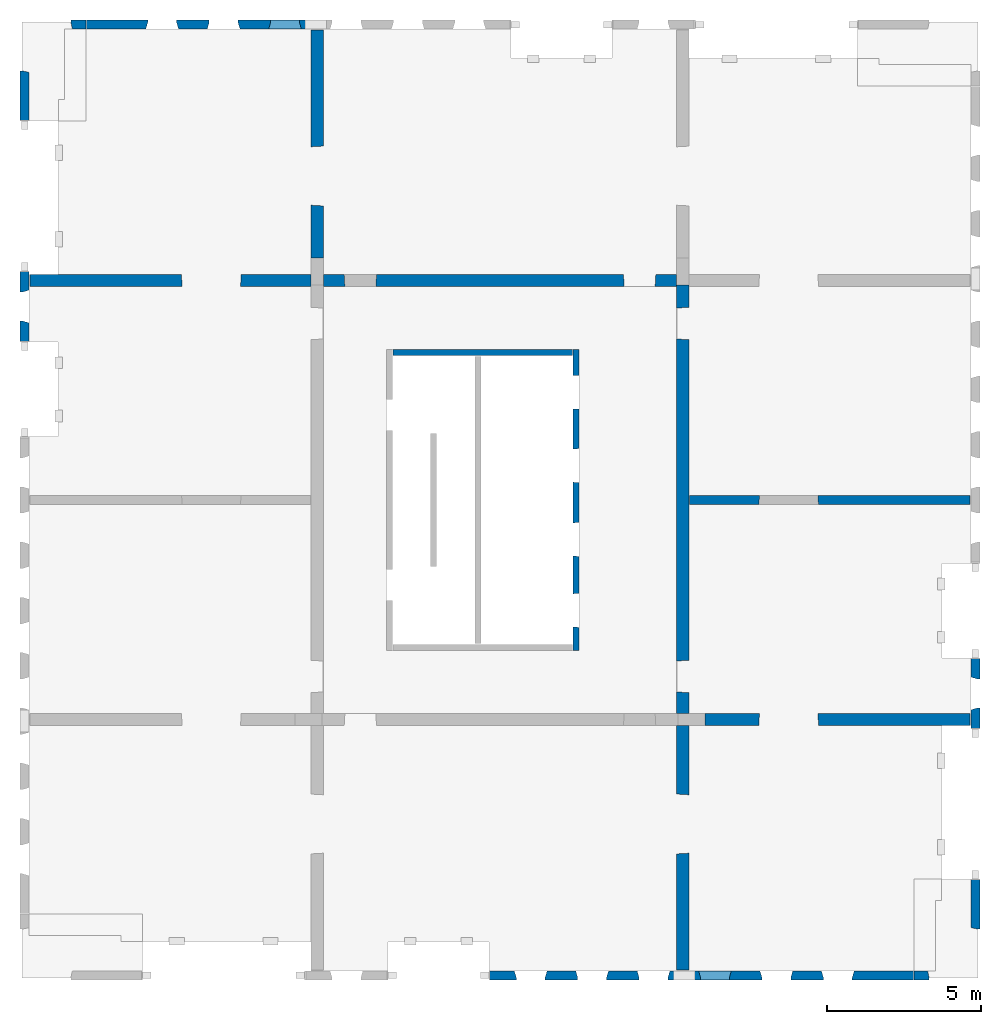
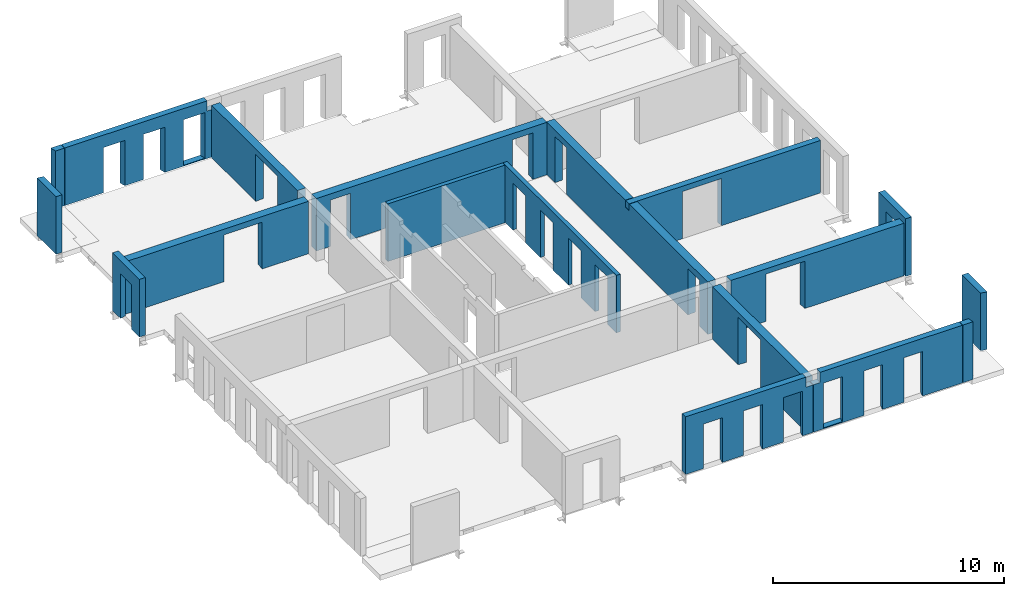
# One storey, part 3 of 4: 18 walls, 33 openings.
"""IFC2X3 building model written with IfcOpenShell, lengths in millimetres."""

import ifcopenshell
import ifcopenshell.guid

model = None  # the IFC model being written
_history = None  # IfcOwnerHistory: only IFC2X3 demands one
_inside = {}  # id of a spatial element -> (the spatial element, [elements in it])
_under = {}  # id of a project, library or spatial element -> (it, [spatial elements below it])
_declared = {}  # id of a project -> (the project, [libraries it declares])
_typed = {}  # id of a type object -> (the type object, [elements of that type])
_made_of = {}  # id of a material, layer set ... -> (it, [elements and type objects made of it])


def new_model(schema):
    """Start an empty IFC model of exactly this schema.

    Asked for "IFC4X3", IfcOpenShell would pick the latest addendum, in which some entities
    have other attributes; the version numbers below select the first issue.
    IFC2X3 requires an IfcOwnerHistory on every rooted entity: one is made here for all.
    """
    global model, _history
    if schema == "IFC4X3":
        model = ifcopenshell.file(schema_version=(4, 3, 0, 0))
    else:
        model = ifcopenshell.file(schema=schema)
    _inside.clear()
    _under.clear()
    _declared.clear()
    _typed.clear()
    _made_of.clear()
    _history = None
    if model.schema == "IFC2X3":
        org = make("IfcOrganization", Name="unknown")
        user = make(
            "IfcPersonAndOrganization",
            ThePerson=make("IfcPerson", FamilyName="unknown"),
            TheOrganization=org,
        )
        app = make(
            "IfcApplication",
            ApplicationDeveloper=org,
            Version="unknown",
            ApplicationFullName="unknown",
            ApplicationIdentifier="unknown",
        )
        _history = make(
            "IfcOwnerHistory",
            OwningUser=user,
            OwningApplication=app,
            ChangeAction="ADDED",
            CreationDate=0,
        )
    return model


def make(cls, **values):
    """One entity of the class cls with the attributes given. An attribute that is None is left unset."""
    return model.create_entity(
        cls, **{name: value for name, value in values.items() if value is not None}
    )


def entity(cls, *values):
    """Any entity or typed value of the class cls, its attributes in the order of the schema. None: left unset."""
    e = model.create_entity(cls)
    for i, value in enumerate(values):
        if value is not None:
            e[i] = value
    return e


def rooted(cls, **values):
    """An entity with a GlobalId (a new one), such as an element, a storey or a relation."""
    return make(cls, GlobalId=ifcopenshell.guid.new(), OwnerHistory=_history, **values)


def si_unit(unit_type, name, prefix=None):
    """IfcSIUnit, for example si_unit("LENGTHUNIT", "METRE", prefix="MILLI")."""
    return make("IfcSIUnit", UnitType=unit_type, Prefix=prefix, Name=name)


def converted_unit(unit_type, name, factor, base, dimensions=None, offset=None):
    """IfcConversionBasedUnit, such as the inch: factor (a typed value) times the base unit."""
    return make(
        "IfcConversionBasedUnit"
        if offset is None
        else "IfcConversionBasedUnitWithOffset",
        ConversionOffset=offset,
        Dimensions=None
        if dimensions is None
        else entity("IfcDimensionalExponents", *dimensions),
        UnitType=unit_type,
        Name=name,
        ConversionFactor=make(
            "IfcMeasureWithUnit", ValueComponent=factor, UnitComponent=base
        ),
    )


def derived_unit(unit_type, elements):
    """IfcDerivedUnit: a product of units, each with its exponent."""
    return make(
        "IfcDerivedUnit",
        Elements=[
            make("IfcDerivedUnitElement", Unit=unit, Exponent=power)
            for unit, power in elements
        ],
        UnitType=unit_type,
    )


def assignment(units):
    """IfcUnitAssignment: the units of a project."""
    return None if units is None else make("IfcUnitAssignment", Units=units)


def point(xyz):
    """IfcCartesianPoint."""
    return None if xyz is None else make("IfcCartesianPoint", Coordinates=xyz)


def direction(xyz):
    """IfcDirection."""
    return None if xyz is None else make("IfcDirection", DirectionRatios=xyz)


def frame(location, z_axis=None, x_axis=None):
    """IfcAxis2Placement3D, a coordinate frame: its origin and axes. An axis left out is left unset."""
    return make(
        "IfcAxis2Placement3D",
        Location=point(location),
        Axis=direction(z_axis),
        RefDirection=direction(x_axis),
    )


def frame_2d(location, x_axis=None):
    """IfcAxis2Placement2D, a coordinate frame in the plane: its origin and x axis."""
    return make(
        "IfcAxis2Placement2D", Location=point(location), RefDirection=direction(x_axis)
    )


def origin():
    """The frame at (0, 0, 0) with its axes left unset."""
    return frame((0.0, 0.0, 0.0))


def origin_2d_with_axis():
    """The frame at (0, 0) in the plane with the x axis (1, 0) written out."""
    return frame_2d((0.0, 0.0), x_axis=(1.0, 0.0))


def place(relative_to, where):
    """IfcLocalPlacement: puts the frame where relative to a parent placement (None: the world)."""
    return make(
        "IfcLocalPlacement", PlacementRelTo=relative_to, RelativePlacement=where
    )


def context(
    kind, dimensions, precision=None, world=None, true_north=None, identifier=None
):
    """IfcGeometricRepresentationContext, for example the 3D "Model" context."""
    return make(
        "IfcGeometricRepresentationContext",
        ContextIdentifier=identifier,
        ContextType=kind,
        CoordinateSpaceDimension=dimensions,
        Precision=precision,
        WorldCoordinateSystem=world,
        TrueNorth=true_north,
    )


def subcontext(parent, identifier, kind, view, scale=None):
    """IfcGeometricRepresentationSubContext, for example "Body" below "Model"."""
    return make(
        "IfcGeometricRepresentationSubContext",
        ContextIdentifier=identifier,
        ContextType=kind,
        ParentContext=parent,
        TargetScale=scale,
        TargetView=view,
    )


def project(units=None, contexts=None):
    """IfcProject with its units and contexts."""
    return rooted(
        "IfcProject",
        Name="project",
        RepresentationContexts=contexts,
        UnitsInContext=assignment(units),
    )


def spatial(cls, under=None, at=None, **own):
    """A site, building, storey or space (cls), placed at a placement, below another one or the project."""
    s = rooted(cls, ObjectPlacement=at, **own)
    if under is not None:
        _under.setdefault(under.id(), (under, []))[1].append(s)
    return s


def profile(cls, at=None, kind="AREA", **sizes):
    """A parametric profile (cls). Its sizes go by their IFC names, for example OverallWidth=200.0."""
    return make(cls, ProfileType=kind, Position=at, **sizes)


def rectangle(**sizes):
    """IfcRectangleProfileDef."""
    return profile("IfcRectangleProfileDef", **sizes)


def extrude(swept, where, along, depth):
    """IfcExtrudedAreaSolid: the profile swept, set in the frame where, extruded along a direction by depth."""
    return make(
        "IfcExtrudedAreaSolid",
        SweptArea=swept,
        Position=where,
        ExtrudedDirection=direction(along),
        Depth=depth,
    )


def faces_of(points, faces, orient=None, outer=None):
    """IfcFace entities. A face is a list of loops; a loop is a list of indices into points, from 0.

    orient and outer hold one flag for each loop. By default every Orientation is true, the
    first loop of a face is its IfcFaceOuterBound and the others are IfcFaceBound.
    """
    made = []
    for i, loops in enumerate(faces):
        bounds = []
        for j, loop in enumerate(loops):
            is_outer = j == 0 if outer is None else outer[i][j]
            bounds.append(
                make(
                    "IfcFaceOuterBound" if is_outer else "IfcFaceBound",
                    Bound=make("IfcPolyLoop", Polygon=[points[k] for k in loop]),
                    Orientation=True if orient is None else orient[i][j],
                )
            )
        made.append(make("IfcFace", Bounds=bounds))
    return made


def faceted_brep(points, faces, orient=None, outer=None, voids=None):
    """IfcFacetedBrep: a solid bounded by flat faces; with voids (closed shells), ...WithVoids."""
    shared = [point(p) for p in points]
    hull = make("IfcClosedShell", CfsFaces=faces_of(shared, faces, orient, outer))
    if voids is None:
        return make("IfcFacetedBrep", Outer=hull)
    return make(
        "IfcFacetedBrepWithVoids",
        Outer=hull,
        Voids=[
            make(cls, CfsFaces=faces_of(shared, fs, o, b)) for cls, fs, o, b in voids
        ],
    )


def shape(context_of_items, identifier, shape_type, items):
    """IfcShapeRepresentation: the items that make up one representation, for example the "Body"."""
    return make(
        "IfcShapeRepresentation",
        ContextOfItems=context_of_items,
        RepresentationIdentifier=identifier,
        RepresentationType=shape_type,
        Items=items,
    )


def material(Name=None, Category=None):
    """IfcMaterial."""
    return make("IfcMaterial", Name=Name, Category=Category)


def layer(
    of_material, thickness, ventilated=None, Name=None, Category=None, Priority=None
):
    """IfcMaterialLayer: one layer of a wall or slab, of a material (None: an air gap)."""
    return make(
        "IfcMaterialLayer",
        Material=of_material,
        LayerThickness=thickness,
        IsVentilated=ventilated,
        Name=Name,
        Category=Category,
        Priority=Priority,
    )


def layer_set(layers, Name=None):
    """IfcMaterialLayerSet."""
    return make("IfcMaterialLayerSet", MaterialLayers=layers, LayerSetName=Name)


def layer_usage(for_layer_set, set_direction, sense, offset, extent=None):
    """IfcMaterialLayerSetUsage: how a layer set lies in its element."""
    return make(
        "IfcMaterialLayerSetUsage",
        ForLayerSet=for_layer_set,
        LayerSetDirection=set_direction,
        DirectionSense=sense,
        OffsetFromReferenceLine=offset,
        ReferenceExtent=extent,
    )


def made_of(thing, what):
    """Note that an element or type object is made of a material, layer set ...; save() writes the relation."""
    if what is not None:
        _made_of.setdefault(what.id(), (what, []))[1].append(thing)
    return thing


def type_object(cls, material=None, **own):
    """A type object (cls), such as IfcWallType, which elements share."""
    return made_of(rooted(cls, **own), material)


def element(
    cls,
    number,
    at=None,
    inside=None,
    cuts=None,
    type_object=None,
    material=None,
    context=None,
    identifier="Body",
    shape_type=None,
    held_by="IfcProductDefinitionShape",
    body=None,
    shapes=None,
    **own,
):
    """One element of the class cls, such as IfcWall. Its Tag is "e" and its number.

    at: its placement. inside: the storey or other place that contains it. cuts: it is an
    opening in that element (IfcRelVoidsElement). A single representation is given by context,
    identifier, shape_type and body (its items); several are given by shapes. held_by: the class
    of the entity that holds the representations. save() writes the other relations.
    """
    e = rooted(cls, Tag="e%d" % number, ObjectPlacement=at, **own)
    if body is not None:
        shapes = [shape(context, identifier, shape_type, body)]
    if shapes is not None:
        e.Representation = make(held_by, Representations=shapes)
    if inside is not None:
        _inside.setdefault(inside.id(), (inside, []))[1].append(e)
    if cuts is not None:
        rooted(
            "IfcRelVoidsElement", RelatingBuildingElement=cuts, RelatedOpeningElement=e
        )
    if type_object is not None:
        _typed.setdefault(type_object.id(), (type_object, []))[1].append(e)
    return made_of(e, material)


def aggregate(whole, parts):
    """IfcRelAggregates: a whole, such as a stair, and the parts it consists of."""
    return rooted("IfcRelAggregates", RelatingObject=whole, RelatedObjects=parts)


def save(model, path):
    """Write the relations noted so far, then the file.

    IfcRelAggregates (storeys below a building ...), IfcRelContainedInSpatialStructure (elements
    in a storey), IfcRelDefinesByType, IfcRelAssociatesMaterial and IfcRelDeclares: one each for
    every whole, place, type object, material and project.
    """
    for whole, parts in _under.values():
        aggregate(whole, parts)
    for where, things in _inside.values():
        rooted(
            "IfcRelContainedInSpatialStructure",
            RelatedElements=things,
            RelatingStructure=where,
        )
    for kind, things in _typed.values():
        rooted("IfcRelDefinesByType", RelatedObjects=things, RelatingType=kind)
    for what, things in _made_of.values():
        rooted("IfcRelAssociatesMaterial", RelatedObjects=things, RelatingMaterial=what)
    for by, libraries in _declared.values():
        rooted("IfcRelDeclares", RelatingContext=by, RelatedDefinitions=libraries)
    model.write(path)


model = new_model("IFC2X3")

# Units and contexts
model_context = context("Model", 3, precision=0.01, world=origin(), true_north=direction((6.12303176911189e-17, 1.0)))
body_context = subcontext(model_context, "Body", "Model", "MODEL_VIEW")
ifc_project = project(units=[si_unit("LENGTHUNIT", "METRE", prefix="MILLI"), si_unit("AREAUNIT", "SQUARE_METRE"), si_unit("VOLUMEUNIT", "CUBIC_METRE"), converted_unit("PLANEANGLEUNIT", "DEGREE", entity("IfcRatioMeasure", 0.0174532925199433), si_unit("PLANEANGLEUNIT", "RADIAN"), dimensions=[0, 0, 0, 0, 0, 0, 0]), si_unit("MASSUNIT", "GRAM", prefix="KILO"), derived_unit("MASSDENSITYUNIT", [(si_unit("MASSUNIT", "GRAM", prefix="KILO"), 1), (si_unit("LENGTHUNIT", "METRE"), -3)]), si_unit("TIMEUNIT", "SECOND"), si_unit("FREQUENCYUNIT", "HERTZ"), si_unit("THERMODYNAMICTEMPERATUREUNIT", "DEGREE_CELSIUS"), derived_unit("THERMALTRANSMITTANCEUNIT", [(si_unit("MASSUNIT", "GRAM", prefix="KILO"), 1), (si_unit("THERMODYNAMICTEMPERATUREUNIT", "KELVIN"), -1), (si_unit("TIMEUNIT", "SECOND"), -3)]), derived_unit("VOLUMETRICFLOWRATEUNIT", [(si_unit("LENGTHUNIT", "METRE"), 3), (si_unit("TIMEUNIT", "SECOND"), -1)]), si_unit("ELECTRICCURRENTUNIT", "AMPERE"), si_unit("ELECTRICVOLTAGEUNIT", "VOLT"), si_unit("POWERUNIT", "WATT"), si_unit("FORCEUNIT", "NEWTON", prefix="KILO"), si_unit("ILLUMINANCEUNIT", "LUX"), si_unit("LUMINOUSFLUXUNIT", "LUMEN"), si_unit("LUMINOUSINTENSITYUNIT", "CANDELA"), derived_unit("USERDEFINED", [(si_unit("MASSUNIT", "GRAM", prefix="KILO"), -1), (si_unit("LENGTHUNIT", "METRE"), -2), (si_unit("TIMEUNIT", "SECOND"), 3), (si_unit("LUMINOUSFLUXUNIT", "LUMEN"), 1)]), derived_unit("LINEARVELOCITYUNIT", [(si_unit("LENGTHUNIT", "METRE"), 1), (si_unit("TIMEUNIT", "SECOND"), -1)]), si_unit("PRESSUREUNIT", "PASCAL"), derived_unit("USERDEFINED", [(si_unit("LENGTHUNIT", "METRE"), -2), (si_unit("MASSUNIT", "GRAM", prefix="KILO"), 1), (si_unit("TIMEUNIT", "SECOND"), -2)])], contexts=[model_context])

# Site, building, storey
site_placement = place(None, origin())
site = spatial("IfcSite", under=ifc_project, at=site_placement, Name="Default", CompositionType="ELEMENT")
building_placement = place(site_placement, origin())
building = spatial("IfcBuilding", under=site, at=building_placement, Name="niet gebruiken", CompositionType="ELEMENT")
storey_placement = place(building_placement, frame((0.0, 0.0, 76140.0)))
storey = spatial("IfcBuildingStorey", under=building, at=storey_placement, Name="24 vierentwintigste verdieping", CompositionType="ELEMENT", Elevation=76140.0000000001)

# Wall, openings
ifc_material = material(Name="NLRS_f2_beton prefab")
ifc_layer_1 = layer(ifc_material, 200.0)
ifc_layer_set_1 = layer_set([ifc_layer_1], Name="Basic Wall:NLRS_22.21_WA_beton prefab d=200_gen")
ifc_layer_usage_1 = layer_usage(ifc_layer_set_1, "AXIS2", "NEGATIVE", 100.0)
wall_type_1 = type_object("IfcWallType", Name="Basic Wall:NLRS_22.21_WA_beton prefab d=200_gen", PredefinedType="STANDARD", material=ifc_layer_set_1)
wall_1_placement = place(storey_placement, frame((144230.0, 22400.0, -50.0), z_axis=(0.0, 0.0, 1.0), x_axis=(0.0, -1.0, 0.0)))
wall_1 = element("IfcWallStandardCase", 1, at=wall_1_placement, inside=storey, type_object=wall_type_1, material=ifc_layer_usage_1, Name="Basic Wall:NLRS_22.21_WA_beton prefab d=200_gen", ObjectType="Basic Wall:NLRS_22.21_WA_beton prefab d=200_gen", context=body_context, shape_type="SweptSolid", body=[
    extrude(rectangle(XDim=9800.0, YDim=199.999999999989, at=frame_2d((4900.0, -3.69482222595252e-13), x_axis=(-1.0, 0.0))), origin(), (0.0, 0.0, 1.0), 3039.99999999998),
])
opening_1_placement = place(wall_1_placement, frame((9047.0, -100.0, 0.0)))
element("IfcOpeningElement", 2, at=opening_1_placement, cuts=wall_1, Name="Basic Wall:NLRS_22.21_WA_beton prefab d=200_gen", ObjectType="Opening", context=body_context, shape_type="Brep", body=[
    faceted_brep([(-1104.0, 200.0, 2502.0), (-1104.0, 200.0, 0.0), (-1092.0, 0.0, 0.0), (-1092.0, 0.0, 2490.0), (0.0, 200.0, 0.0), (-12.0, 0.0, 0.0), (-12.0, 0.0, 2490.0), (0.0, 200.0, 2502.0)], [[[0, 1, 2, 3]], [[1, 4, 5, 2]], [[6, 3, 2, 5]], [[7, 4, 1, 0]], [[7, 0, 3, 6]], [[4, 7, 6, 5]]]),
])
opening_2_placement = place(wall_1_placement, frame((6737.0, -100.0, 0.0)))
element("IfcOpeningElement", 3, at=opening_2_placement, cuts=wall_1, Name="Basic Wall:NLRS_22.21_WA_beton prefab d=200_gen", ObjectType="Opening", context=body_context, shape_type="Brep", body=[
    faceted_brep([(-1104.0, 200.0, 2502.0), (-1104.0, 200.0, 0.0), (-1092.0, 0.0, 0.0), (-1092.0, 0.0, 2490.0), (0.0, 200.0, 0.0), (-12.0, 0.0, 0.0), (-12.0, 0.0, 2490.0), (0.0, 200.0, 2502.0)], [[[0, 1, 2, 3]], [[1, 4, 5, 2]], [[6, 3, 2, 5]], [[7, 4, 1, 0]], [[7, 0, 3, 6]], [[4, 7, 6, 5]]]),
])
opening_3_placement = place(wall_1_placement, frame((4332.0, -100.0, 0.0)))
element("IfcOpeningElement", 4, at=opening_3_placement, cuts=wall_1, Name="Basic Wall:NLRS_22.21_WA_beton prefab d=200_gen", ObjectType="Opening", context=body_context, shape_type="Brep", body=[
    faceted_brep([(-1104.0, 200.0, 2502.0), (-1104.0, 200.0, 0.0), (-1092.0, 0.0, 0.0), (-1092.0, 0.0, 2490.0), (0.0, 200.0, 0.0), (-12.0, 0.0, 0.0), (-12.0, 0.0, 2490.0), (0.0, 200.0, 2502.0)], [[[0, 1, 2, 3]], [[1, 4, 5, 2]], [[6, 3, 2, 5]], [[7, 4, 1, 0]], [[7, 0, 3, 6]], [[4, 7, 6, 5]]]),
])
opening_4_placement = place(wall_1_placement, frame((1942.0, -100.0, 0.0)))
element("IfcOpeningElement", 5, at=opening_4_placement, cuts=wall_1, Name="Basic Wall:NLRS_22.21_WA_beton prefab d=200_gen", ObjectType="Opening", context=body_context, shape_type="Brep", body=[
    faceted_brep([(-1104.0, 200.0, 2502.0), (-1104.0, 200.0, 0.0), (-1092.0, 0.0, 0.0), (-1092.0, 0.0, 2490.0), (0.0, 200.0, 0.0), (-12.0, 0.0, 0.0), (-12.0, 0.0, 2490.0), (0.0, 200.0, 2502.0)], [[[0, 1, 2, 3]], [[1, 4, 5, 2]], [[6, 3, 2, 5]], [[7, 4, 1, 0]], [[7, 0, 3, 6]], [[4, 7, 6, 5]]]),
])

# Wall
ifc_layer_usage_2 = layer_usage(ifc_layer_set_1, "AXIS2", "NEGATIVE", 100.0)
wall_2_placement = place(storey_placement, frame((138270.0, 22300.0, -50.0)))
element("IfcWallStandardCase", 6, at=wall_2_placement, inside=storey, type_object=wall_type_1, material=ifc_layer_usage_2, Name="Basic Wall:NLRS_22.21_WA_beton prefab d=200_gen", ObjectType="Basic Wall:NLRS_22.21_WA_beton prefab d=200_gen", context=body_context, shape_type="SweptSolid", body=[
    extrude(rectangle(XDim=5839.99999999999, YDim=199.999999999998, at=frame_2d((2919.99999999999, -7.60280727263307e-13), x_axis=(-1.0, 0.0))), origin(), (0.0, 0.0, 1.0), 3039.99999999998),
])

# Wall, openings
ifc_layer_2 = layer(ifc_material, 300.0)
ifc_layer_set_2 = layer_set([ifc_layer_2], Name="Basic Wall:NLRS_22.21_WA_beton prefab d=300_gen")
ifc_layer_usage_3 = layer_usage(ifc_layer_set_2, "AXIS2", "NEGATIVE", 150.0)
wall_type_2 = type_object("IfcWallType", Name="Basic Wall:NLRS_22.21_WA_beton prefab d=300_gen", PredefinedType="STANDARD", material=ifc_layer_set_2)
wall_3_placement = place(storey_placement, frame((157060.0, 17500.0, -70.0), z_axis=(0.0, 0.0, 1.0), x_axis=(-1.0, 0.0, 0.0)))
wall_3 = element("IfcWallStandardCase", 7, at=wall_3_placement, inside=storey, type_object=wall_type_2, material=ifc_layer_usage_3, Name="Basic Wall:NLRS_22.21_WA_beton prefab d=300_gen", ObjectType="Basic Wall:NLRS_22.21_WA_beton prefab d=300_gen", context=body_context, shape_type="SweptSolid", body=[
    extrude(rectangle(XDim=9559.9999999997, YDim=300.000000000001, at=frame_2d((4779.99999999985, -1.84741111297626e-13), x_axis=(-1.0, 0.0))), origin(), (0.0, 0.0, 1.0), 2769.99999999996),
])
opening_5_placement = place(wall_3_placement, frame((6878.0, 150.0, 0.0)))
element("IfcOpeningElement", 8, at=opening_5_placement, cuts=wall_3, Name="Basic Wall:NLRS_22.21_WA_beton prefab d=300_gen", ObjectType="Opening", context=body_context, shape_type="Brep", body=[
    faceted_brep([(-18.0, -300.0, 2470.0), (-1918.0, -300.0, 2470.0), (-1918.0, -300.0, 0.0), (-18.0, -300.0, 0.0), (0.0, 0.0, 2488.0), (0.0, 0.0, 0.0), (-1936.0, 0.0, 0.0), (-1936.0, 0.0, 2488.0)], [[[0, 1, 2, 3]], [[4, 5, 6, 7]], [[4, 7, 1, 0]], [[7, 6, 2, 1]], [[6, 5, 3, 2]], [[5, 4, 0, 3]]]),
])
opening_6_placement = place(wall_3_placement, origin())
element("IfcOpeningElement", 9, at=opening_6_placement, cuts=wall_3, Name="Basic Wall:NLRS_22.21_WA_beton prefab d=300_gen", ObjectType="Opening", context=body_context, shape_type="SweptSolid", body=[
    extrude(rectangle(XDim=2439.99999999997, YDim=420.000000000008, at=frame_2d((0.0, -4.32009983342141e-12), x_axis=(0.0, 1.0))), frame((9350.0, 150.0, 1220.0), z_axis=(0.0, -1.0, 0.0), x_axis=(1.0, 0.0, 0.0)), (0.0, 0.0, 1.0), 300.0),
])

# Wall, opening
ifc_layer_3 = layer(ifc_material, 400.0)
ifc_layer_set_3 = layer_set([ifc_layer_3], Name="Basic Wall:NLRS_22.21_WA_beton prefab d=400_gen")
ifc_layer_usage_4 = layer_usage(ifc_layer_set_3, "AXIS2", "NEGATIVE", 200.0)
wall_type_3 = type_object("IfcWallType", Name="Basic Wall:NLRS_22.21_WA_beton prefab d=400_gen", PredefinedType="STANDARD", material=ifc_layer_set_3)
wall_4_placement = place(storey_placement, frame((147700.0, 10150.0, -70.0), z_axis=(0.0, 0.0, 1.0), x_axis=(0.0, -1.0, 0.0)))
wall_4 = element("IfcWallStandardCase", 10, at=wall_4_placement, inside=storey, type_object=wall_type_3, material=ifc_layer_usage_4, Name="Basic Wall:NLRS_22.21_WA_beton prefab d=400_gen", ObjectType="Basic Wall:NLRS_22.21_WA_beton prefab d=400_gen", context=body_context, shape_type="SweptSolid", body=[
    extrude(rectangle(XDim=7960.00000000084, YDim=400.000000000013, at=frame_2d((3980.00000000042, -7.105427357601e-14), x_axis=(-1.0, 0.0))), origin(), (0.0, 0.0, 1.0), 2770.00000000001),
])
opening_7_placement = place(wall_4_placement, frame((4174.0, -200.0, 0.0)))
element("IfcOpeningElement", 11, at=opening_7_placement, cuts=wall_4, Name="Basic Wall:NLRS_22.21_WA_beton prefab d=400_gen", ObjectType="Opening", context=body_context, shape_type="Brep", body=[
    faceted_brep([(-24.0, 400.0, 2470.0), (-24.0, 400.0, 0.0), (-1924.0, 400.0, 0.0), (-1924.0, 400.0, 2470.0), (0.0, 0.0, 2494.0), (-1948.0, 0.0, 2494.0), (-1948.0, 0.0, 0.0), (0.0, 0.0, 0.0)], [[[0, 1, 2, 3]], [[4, 5, 6, 7]], [[4, 0, 3, 5]], [[5, 3, 2, 6]], [[6, 2, 1, 7]], [[7, 1, 0, 4]]]),
])

ifc_layer_usage_5 = layer_usage(ifc_layer_set_3, "AXIS2", "NEGATIVE", 200.0)
wall_5_placement = place(storey_placement, frame((135600.0, 24650.0, -70.0), z_axis=(0.0, 0.0, 1.0), x_axis=(-1.0, 0.0, 0.0)))
wall_5 = element("IfcWallStandardCase", 12, at=wall_5_placement, inside=storey, type_object=wall_type_3, material=ifc_layer_usage_5, Name="Basic Wall:NLRS_22.21_WA_beton prefab d=400_gen", ObjectType="Basic Wall:NLRS_22.21_WA_beton prefab d=400_gen", context=body_context, shape_type="SweptSolid", body=[
    extrude(rectangle(XDim=9159.99999999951, YDim=399.999999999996, at=frame_2d((4579.99999999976, -1.36424205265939e-12), x_axis=(-1.0, 0.0))), origin(), (0.0, 0.0, 1.0), 2770.00000000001),
])
opening_8_placement = place(wall_5_placement, frame((4224.0, 200.0, 0.0)))
element("IfcOpeningElement", 13, at=opening_8_placement, cuts=wall_5, Name="Basic Wall:NLRS_22.21_WA_beton prefab d=400_gen", ObjectType="Opening", context=body_context, shape_type="Brep", body=[
    faceted_brep([(-1924.0, 0.0, 2470.0), (-24.0, 0.0, 2470.0), (-24.0, 0.0, 0.0), (-1924.0, 0.0, 0.0), (-1948.0, -400.0, 2494.0), (-1948.0, -400.0, 0.0), (0.0, -400.0, 0.0), (0.0, -400.0, 2494.0)], [[[0, 1, 2, 3]], [[4, 5, 6, 7]], [[4, 7, 1, 0]], [[7, 6, 2, 1]], [[6, 5, 3, 2]], [[5, 4, 0, 3]]]),
])

ifc_layer_usage_6 = layer_usage(ifc_layer_set_3, "AXIS2", "NEGATIVE", 200.0)
wall_6_placement = place(storey_placement, frame((148430.0, 10350.0, -70.0)))
wall_6 = element("IfcWallStandardCase", 14, at=wall_6_placement, inside=storey, type_object=wall_type_3, material=ifc_layer_usage_6, Name="Basic Wall:NLRS_22.21_WA_beton prefab d=400_gen", ObjectType="Basic Wall:NLRS_22.21_WA_beton prefab d=400_gen", context=body_context, shape_type="SweptSolid", body=[
    extrude(rectangle(XDim=8630.00000000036, YDim=400.0, at=frame_2d((4315.00000000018, 0.0), x_axis=(-1.0, 0.0))), origin(), (0.0, 0.0, 1.0), 2770.00000000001),
])
opening_9_placement = place(wall_6_placement, frame((1746.0, -200.0, 0.0)))
element("IfcOpeningElement", 15, at=opening_9_placement, cuts=wall_6, Name="Basic Wall:NLRS_22.21_WA_beton prefab d=400_gen", ObjectType="Opening", context=body_context, shape_type="Brep", body=[
    faceted_brep([(24.0, 400.0, 2470.0), (1924.0, 400.0, 2470.0), (1924.0, 400.0, 0.0), (24.0, 400.0, 0.0), (0.0, 0.0, 2494.0), (0.0, 0.0, 0.0), (1948.0, 0.0, 0.0), (1948.0, 0.0, 2494.0)], [[[0, 1, 2, 3]], [[4, 5, 6, 7]], [[4, 7, 1, 0]], [[7, 6, 2, 1]], [[6, 5, 3, 2]], [[5, 4, 0, 3]]]),
])

ifc_layer_usage_7 = layer_usage(ifc_layer_set_3, "AXIS2", "NEGATIVE", 200.0)
wall_7_placement = place(storey_placement, frame((135800.0, 25380.0, -70.0), z_axis=(0.0, 0.0, 1.0), x_axis=(0.0, 1.0, 0.0)))
wall_7 = element("IfcWallStandardCase", 16, at=wall_7_placement, inside=storey, type_object=wall_type_3, material=ifc_layer_usage_7, Name="Basic Wall:NLRS_22.21_WA_beton prefab d=400_gen", ObjectType="Basic Wall:NLRS_22.21_WA_beton prefab d=400_gen", context=body_context, shape_type="SweptSolid", body=[
    extrude(rectangle(XDim=7430.00000000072, YDim=400.000000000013, at=frame_2d((3715.00000000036, -5.62749846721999e-12), x_axis=(-1.0, 0.0))), origin(), (0.0, 0.0, 1.0), 2770.00000000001),
])
opening_10_placement = place(wall_7_placement, frame((1696.0, 200.0, 0.0)))
element("IfcOpeningElement", 17, at=opening_10_placement, cuts=wall_7, Name="Basic Wall:NLRS_22.21_WA_beton prefab d=400_gen", ObjectType="Opening", context=body_context, shape_type="Brep", body=[
    faceted_brep([(1924.0, 0.0, 2470.0), (1924.0, 0.0, 0.0), (24.0, 0.0, 0.0), (24.0, 0.0, 2470.0), (1948.0, -400.0, 2494.0), (0.0, -400.0, 2494.0), (0.0, -400.0, 0.0), (1948.0, -400.0, 0.0)], [[[0, 1, 2, 3]], [[4, 5, 6, 7]], [[4, 0, 3, 5]], [[5, 3, 2, 6]], [[6, 2, 1, 7]], [[7, 1, 0, 4]]]),
])

# Wall, openings
ifc_layer_usage_8 = layer_usage(ifc_layer_set_3, "AXIS2", "NEGATIVE", 200.0)
wall_8_placement = place(storey_placement, frame((147700.0, 24500.0, -70.0), z_axis=(0.0, 0.0, 1.0), x_axis=(0.0, -1.0, 0.0)))
wall_8 = element("IfcWallStandardCase", 18, at=wall_8_placement, inside=storey, type_object=wall_type_3, material=ifc_layer_usage_8, Name="Basic Wall:NLRS_22.21_WA_beton prefab d=400_gen", ObjectType="Basic Wall:NLRS_22.21_WA_beton prefab d=400_gen", context=body_context, shape_type="SweptSolid", body=[
    extrude(rectangle(XDim=13949.9999999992, YDim=400.000000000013, at=frame_2d((6974.9999999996, 2.8421709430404e-14), x_axis=(-1.0, 0.0))), origin(), (0.0, 0.0, 1.0), 2770.00000000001),
])
opening_11_placement = place(wall_8_placement, frame((13274.0, -200.0, 0.0)))
element("IfcOpeningElement", 19, at=opening_11_placement, cuts=wall_8, Name="Basic Wall:NLRS_22.21_WA_beton prefab d=400_gen", ObjectType="Opening", context=body_context, shape_type="Brep", body=[
    faceted_brep([(-1054.0, 400.0, 2472.0), (-1054.0, 400.0, 0.0), (-1030.0, 0.0, 0.0), (-1030.0, 0.0, 2448.0), (0.0, 400.0, 0.0), (-24.0, 0.0, 0.0), (-24.0, 0.0, 2448.0), (0.0, 400.0, 2472.0)], [[[0, 1, 2, 3]], [[1, 4, 5, 2]], [[6, 3, 2, 5]], [[7, 4, 1, 0]], [[7, 0, 3, 6]], [[4, 7, 6, 5]]]),
])
opening_12_placement = place(wall_8_placement, frame((1780.0, -200.0, 0.0)))
element("IfcOpeningElement", 20, at=opening_12_placement, cuts=wall_8, Name="Basic Wall:NLRS_22.21_WA_beton prefab d=400_gen", ObjectType="Opening", context=body_context, shape_type="Brep", body=[
    faceted_brep([(-1054.0, 400.0, 2472.0), (-1054.0, 400.0, 0.0), (-1030.0, 0.0, 0.0), (-1030.0, 0.0, 2448.0), (0.0, 400.0, 0.0), (-24.0, 0.0, 0.0), (-24.0, 0.0, 2448.0), (0.0, 400.0, 2472.0)], [[[0, 1, 2, 3]], [[1, 4, 5, 2]], [[6, 3, 2, 5]], [[7, 4, 1, 0]], [[7, 0, 3, 6]], [[4, 7, 6, 5]]]),
])
opening_13_placement = place(wall_8_placement, origin())
element("IfcOpeningElement", 21, at=opening_13_placement, cuts=wall_8, Name="Basic Wall:NLRS_22.21_WA_beton prefab d=400_gen", ObjectType="Opening", context=body_context, shape_type="SweptSolid", body=[
    extrude(rectangle(XDim=350.000000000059, YDim=339.999999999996, at=frame_2d((0.0, 0.0), x_axis=(0.0, 1.0))), frame((7000.0, 200.0, 2595.0), z_axis=(0.0, -1.0, 0.0), x_axis=(-1.0, 0.0, 0.0)), (0.0, 0.0, 1.0), 400.0),
])

ifc_layer_usage_9 = layer_usage(ifc_layer_set_3, "AXIS2", "NEGATIVE", 200.0)
wall_9_placement = place(storey_placement, frame((136000.0, 24650.0, -70.0)))
wall_9 = element("IfcWallStandardCase", 22, at=wall_9_placement, inside=storey, type_object=wall_type_3, material=ifc_layer_usage_9, Name="Basic Wall:NLRS_22.21_WA_beton prefab d=400_gen", ObjectType="Basic Wall:NLRS_22.21_WA_beton prefab d=400_gen", context=body_context, shape_type="SweptSolid", body=[
    extrude(rectangle(XDim=11500.0, YDim=400.000000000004, at=frame_2d((5749.99999999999, -1.09423581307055e-12), x_axis=(-1.0, 0.0))), origin(), (0.0, 0.0, 1.0), 2770.00000000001),
])
opening_14_placement = place(wall_9_placement, frame((676.0, -200.0, 0.0)))
element("IfcOpeningElement", 23, at=opening_14_placement, cuts=wall_9, Name="Basic Wall:NLRS_22.21_WA_beton prefab d=400_gen", ObjectType="Opening", context=body_context, shape_type="Brep", body=[
    faceted_brep([(0.0, 400.0, 2472.0), (0.0, 400.0, 0.0), (24.0, 0.0, 0.0), (24.0, 0.0, 2448.0), (1054.0, 400.0, 0.0), (1030.0, 0.0, 0.0), (1030.0, 0.0, 2448.0), (1054.0, 400.0, 2472.0)], [[[0, 1, 2, 3]], [[1, 4, 5, 2]], [[6, 3, 2, 5]], [[7, 4, 1, 0]], [[7, 0, 3, 6]], [[4, 7, 6, 5]]]),
])
opening_15_placement = place(wall_9_placement, frame((9770.0, -200.0, 0.0)))
element("IfcOpeningElement", 24, at=opening_15_placement, cuts=wall_9, Name="Basic Wall:NLRS_22.21_WA_beton prefab d=400_gen", ObjectType="Opening", context=body_context, shape_type="Brep", body=[
    faceted_brep([(0.0, 400.0, 2472.0), (0.0, 400.0, 0.0), (24.0, 0.0, 0.0), (24.0, 0.0, 2448.0), (1054.0, 400.0, 0.0), (1030.0, 0.0, 0.0), (1030.0, 0.0, 2448.0), (1054.0, 400.0, 2472.0)], [[[0, 1, 2, 3]], [[1, 4, 5, 2]], [[6, 3, 2, 5]], [[7, 4, 1, 0]], [[7, 0, 3, 6]], [[4, 7, 6, 5]]]),
])

# Wall, opening
ifc_layer_4 = layer(ifc_material, 300.0)
ifc_layer_set_4 = layer_set([ifc_layer_4], Name="Basic Wall:NLRS_21.21_WA_beton prefab d=300/320_gen")
ifc_layer_usage_10 = layer_usage(ifc_layer_set_4, "AXIS2", "NEGATIVE", 150.0)
wall_type_4 = type_object("IfcWallType", Name="Basic Wall:NLRS_21.21_WA_beton prefab d=300/320_gen", PredefinedType="STANDARD", material=ifc_layer_set_4)
wall_10_placement = place(storey_placement, frame((157230.0, 12360.0, -50.0), z_axis=(0.0, 0.0, 1.0), x_axis=(0.0, -1.0, 0.0)))
wall_10 = element("IfcWallStandardCase", 25, at=wall_10_placement, inside=storey, type_object=wall_type_4, material=ifc_layer_usage_10, Name="Basic Wall:NLRS_21.21_WA_beton prefab d=300/320_gen", ObjectType="Basic Wall:NLRS_21.21_WA_beton prefab d=300/320_gen", context=body_context, shape_type="SweptSolid", body=[
    extrude(rectangle(XDim=2320.00000000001, YDim=300.000000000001, at=frame_2d((1160.0, -8.38440428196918e-12), x_axis=(-1.0, 0.0))), origin(), (0.0, 0.0, 1.0), 3040.0),
])
opening_16_placement = place(wall_10_placement, frame((1695.0, -150.0, -20.0)))
element("IfcOpeningElement", 26, at=opening_16_placement, cuts=wall_10, Name="Basic Wall:NLRS_21.21_WA_beton prefab d=300/320_gen", ObjectType="Opening", context=body_context, shape_type="Brep", body=[
    faceted_brep([(-1070.0, 0.0, 2405.0), (-1070.0, 0.0, 0.0), (0.0, 0.0, 0.0), (0.0, 0.0, 2405.0), (-65.0, 219.0, 2370.0), (-1005.0, 219.0, 2370.0), (-65.0, 219.0, 0.0), (-1005.0, 219.0, 0.0), (-1005.0, 300.0, 0.0), (-65.0, 300.0, 0.0), (-1005.0, 300.0, 2370.0), (-65.0, 300.0, 2370.0)], [[[0, 1, 2, 3]], [[3, 4, 5, 0]], [[2, 6, 4, 3]], [[1, 7, 8, 9, 6, 2]], [[0, 5, 7, 1]], [[10, 11, 9, 8]], [[10, 5, 4, 11]], [[11, 4, 6, 9]], [[8, 7, 5, 10]]]),
])

ifc_layer_usage_11 = layer_usage(ifc_layer_set_4, "AXIS2", "NEGATIVE", 150.0)
wall_11_placement = place(storey_placement, frame((126270.0, 22640.0, -50.0), z_axis=(0.0, 0.0, 1.0), x_axis=(0.0, 1.0, 0.0)))
wall_11 = element("IfcWallStandardCase", 27, at=wall_11_placement, inside=storey, type_object=wall_type_4, material=ifc_layer_usage_11, Name="Basic Wall:NLRS_21.21_WA_beton prefab d=300/320_gen", ObjectType="Basic Wall:NLRS_21.21_WA_beton prefab d=300/320_gen", context=body_context, shape_type="SweptSolid", body=[
    extrude(rectangle(XDim=2320.0, YDim=300.000000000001, at=frame_2d((1160.0, -3.60955709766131e-12), x_axis=(-1.0, 0.0))), origin(), (0.0, 0.0, 1.0), 3040.0),
])
opening_17_placement = place(wall_11_placement, frame((625.0, 150.0, -20.0)))
element("IfcOpeningElement", 28, at=opening_17_placement, cuts=wall_11, Name="Basic Wall:NLRS_21.21_WA_beton prefab d=300/320_gen", ObjectType="Opening", context=body_context, shape_type="Brep", body=[
    faceted_brep([(0.0, -300.0, 2405.0), (0.0, -300.0, 0.0), (1070.0, -300.0, 0.0), (1070.0, -300.0, 2405.0), (1005.0, -81.0, 2370.0), (65.0, -81.0, 2370.0), (1005.0, -81.0, 0.0), (65.0, -81.0, 0.0), (65.0, 0.0, 0.0), (1005.0, 0.0, 0.0), (65.0, 0.0, 2370.0), (1005.0, 0.0, 2370.0)], [[[0, 1, 2, 3]], [[3, 4, 5, 0]], [[2, 6, 4, 3]], [[1, 7, 8, 9, 6, 2]], [[0, 5, 7, 1]], [[10, 11, 9, 8]], [[10, 5, 4, 11]], [[11, 4, 6, 9]], [[8, 7, 5, 10]]]),
])

# Wall, openings
ifc_layer_usage_12 = layer_usage(ifc_layer_set_4, "AXIS2", "NEGATIVE", 150.0)
wall_12_placement = place(storey_placement, frame((128290.0, 32980.0, -50.0)))
wall_12 = element("IfcWallStandardCase", 29, at=wall_12_placement, inside=storey, type_object=wall_type_4, material=ifc_layer_usage_12, Name="Basic Wall:NLRS_21.21_WA_beton prefab d=300/320_gen", ObjectType="Basic Wall:NLRS_21.21_WA_beton prefab d=300/320_gen", context=body_context, shape_type="SweptSolid", body=[
    extrude(rectangle(XDim=7449.9999999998, YDim=300.000000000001, at=frame_2d((3724.9999999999, 0.0), x_axis=(-1.0, 0.0))), origin(), (0.0, 0.0, 1.0), 3040.0),
])
opening_18_placement = place(wall_12_placement, frame((3925.0, -150.0, -20.0)))
element("IfcOpeningElement", 30, at=opening_18_placement, cuts=wall_12, Name="Basic Wall:NLRS_21.21_WA_beton prefab d=300/320_gen", ObjectType="Opening", context=body_context, shape_type="Brep", body=[
    faceted_brep([(1070.0, 0.0, 2405.0), (0.0, 0.0, 2405.0), (0.0, 0.0, 0.0), (1070.0, 0.0, 0.0), (1005.0, 219.0, 2370.0), (65.0, 219.0, 2370.0), (65.0, 219.0, 0.0), (65.0, 300.0, 0.0), (1005.0, 300.0, 0.0), (1005.0, 219.0, 0.0), (1005.0, 300.0, 2370.0), (65.0, 300.0, 2370.0)], [[[0, 1, 2, 3]], [[1, 0, 4, 5]], [[2, 1, 5, 6]], [[3, 2, 6, 7, 8, 9]], [[0, 3, 9, 4]], [[10, 8, 7, 11]], [[10, 11, 5, 4]], [[11, 7, 6, 5]], [[8, 10, 4, 9]]]),
])
opening_19_placement = place(wall_12_placement, frame((1925.0, -150.0, -20.0)))
element("IfcOpeningElement", 31, at=opening_19_placement, cuts=wall_12, Name="Basic Wall:NLRS_21.21_WA_beton prefab d=300/320_gen", ObjectType="Opening", context=body_context, shape_type="Brep", body=[
    faceted_brep([(1070.0, 0.0, 2405.0), (0.0, 0.0, 2405.0), (0.0, 0.0, 0.0), (1070.0, 0.0, 0.0), (1005.0, 219.0, 2370.0), (65.0, 219.0, 2370.0), (65.0, 219.0, 0.0), (65.0, 300.0, 0.0), (1005.0, 300.0, 0.0), (1005.0, 219.0, 0.0), (1005.0, 300.0, 2370.0), (65.0, 300.0, 2370.0)], [[[0, 1, 2, 3]], [[1, 0, 4, 5]], [[2, 1, 5, 6]], [[3, 2, 6, 7, 8, 9]], [[0, 3, 9, 4]], [[10, 8, 7, 11]], [[10, 11, 5, 4]], [[11, 7, 6, 5]], [[8, 10, 4, 9]]]),
])
opening_20_placement = place(wall_12_placement, frame((5925.0, -150.0, 50.0)))
element("IfcOpeningElement", 32, at=opening_20_placement, cuts=wall_12, Name="Basic Wall:NLRS_21.21_WA_beton prefab d=300/320_gen", ObjectType="Opening", context=body_context, shape_type="Brep", body=[
    faceted_brep([(1070.0, 0.0, 2405.0), (0.0, 0.0, 2405.0), (0.0, 0.0, 0.0), (1070.0, 0.0, 0.0), (1005.0, 219.0, 2370.0), (65.0, 219.0, 2370.0), (65.0, 219.0, 0.0), (65.0, 300.0, 0.0), (1005.0, 300.0, 0.0), (1005.0, 219.0, 0.0), (1005.0, 300.0, 2370.0), (65.0, 300.0, 2370.0)], [[[0, 1, 2, 3]], [[1, 0, 4, 5]], [[2, 1, 5, 6]], [[3, 2, 6, 7, 8, 9]], [[0, 3, 9, 4]], [[10, 8, 7, 11]], [[10, 11, 5, 4]], [[11, 7, 6, 5]], [[8, 10, 4, 9]]]),
])
opening_21_placement = place(wall_12_placement, origin())
element("IfcOpeningElement", 33, at=opening_21_placement, cuts=wall_12, Name="Basic Wall:NLRS_21.21_WA_beton prefab d=300/320_gen", ObjectType="Opening", context=body_context, shape_type="SweptSolid", body=[
    extrude(rectangle(XDim=534.999999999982, YDim=344.999999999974, at=frame_2d((-8.66862137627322e-12, 0.0), x_axis=(1.0, 0.0))), frame((7277.49999999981, 150.0, 2772.50000000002), z_axis=(0.0, -1.0, 0.0), x_axis=(0.0, 0.0, 1.0)), (0.0, 0.0, 1.0), 300.0),
])

ifc_layer_usage_13 = layer_usage(ifc_layer_set_4, "AXIS2", "NEGATIVE", 150.0)
wall_13_placement = place(storey_placement, frame((155210.0, 2020.0, -50.0), z_axis=(0.0, 0.0, 1.0), x_axis=(-1.0, 0.0, 0.0)))
wall_13 = element("IfcWallStandardCase", 34, at=wall_13_placement, inside=storey, type_object=wall_type_4, material=ifc_layer_usage_13, Name="Basic Wall:NLRS_21.21_WA_beton prefab d=300/320_gen", ObjectType="Basic Wall:NLRS_21.21_WA_beton prefab d=300/320_gen", context=body_context, shape_type="SweptSolid", body=[
    extrude(rectangle(XDim=7449.99999999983, YDim=300.0, at=frame_2d((3724.99999999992, 5.6843418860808e-14), x_axis=(-1.0, 0.0))), origin(), (0.0, 0.0, 1.0), 3040.00000000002),
])
opening_22_placement = place(wall_13_placement, frame((4995.0, 150.0, -20.0)))
element("IfcOpeningElement", 35, at=opening_22_placement, cuts=wall_13, Name="Basic Wall:NLRS_21.21_WA_beton prefab d=300/320_gen", ObjectType="Opening", context=body_context, shape_type="Brep", body=[
    faceted_brep([(0.0, -300.0, 2405.0), (-1070.0, -300.0, 2405.0), (-1070.0, -300.0, 0.0), (0.0, -300.0, 0.0), (-65.0, -81.0, 2370.0), (-1005.0, -81.0, 2370.0), (-1005.0, -81.0, 0.0), (-1005.0, 0.0, 0.0), (-65.0, 0.0, 0.0), (-65.0, -81.0, 0.0), (-65.0, 0.0, 2370.0), (-1005.0, 0.0, 2370.0)], [[[0, 1, 2, 3]], [[1, 0, 4, 5]], [[2, 1, 5, 6]], [[3, 2, 6, 7, 8, 9]], [[0, 3, 9, 4]], [[10, 8, 7, 11]], [[10, 11, 5, 4]], [[11, 7, 6, 5]], [[8, 10, 4, 9]]]),
])
opening_23_placement = place(wall_13_placement, frame((2995.0, 150.0, -20.0)))
element("IfcOpeningElement", 36, at=opening_23_placement, cuts=wall_13, Name="Basic Wall:NLRS_21.21_WA_beton prefab d=300/320_gen", ObjectType="Opening", context=body_context, shape_type="Brep", body=[
    faceted_brep([(0.0, -300.0, 2405.0), (-1070.0, -300.0, 2405.0), (-1070.0, -300.0, 0.0), (0.0, -300.0, 0.0), (-65.0, -81.0, 2370.0), (-1005.0, -81.0, 2370.0), (-1005.0, -81.0, 0.0), (-1005.0, 0.0, 0.0), (-65.0, 0.0, 0.0), (-65.0, -81.0, 0.0), (-65.0, 0.0, 2370.0), (-1005.0, 0.0, 2370.0)], [[[0, 1, 2, 3]], [[1, 0, 4, 5]], [[2, 1, 5, 6]], [[3, 2, 6, 7, 8, 9]], [[0, 3, 9, 4]], [[10, 8, 7, 11]], [[10, 11, 5, 4]], [[11, 7, 6, 5]], [[8, 10, 4, 9]]]),
])
opening_24_placement = place(wall_13_placement, frame((6995.0, 150.0, 50.0)))
element("IfcOpeningElement", 37, at=opening_24_placement, cuts=wall_13, Name="Basic Wall:NLRS_21.21_WA_beton prefab d=300/320_gen", ObjectType="Opening", context=body_context, shape_type="Brep", body=[
    faceted_brep([(0.0, -300.0, 2405.0), (-1070.0, -300.0, 2405.0), (-1070.0, -300.0, 0.0), (0.0, -300.0, 0.0), (-65.0, -81.0, 2370.0), (-1005.0, -81.0, 2370.0), (-1005.0, -81.0, 0.0), (-1005.0, 0.0, 0.0), (-65.0, 0.0, 0.0), (-65.0, -81.0, 0.0), (-65.0, 0.0, 2370.0), (-1005.0, 0.0, 2370.0)], [[[0, 1, 2, 3]], [[1, 0, 4, 5]], [[2, 1, 5, 6]], [[3, 2, 6, 7, 8, 9]], [[0, 3, 9, 4]], [[10, 8, 7, 11]], [[10, 11, 5, 4]], [[11, 7, 6, 5]], [[8, 10, 4, 9]]]),
])
opening_25_placement = place(wall_13_placement, origin())
element("IfcOpeningElement", 38, at=opening_25_placement, cuts=wall_13, Name="Basic Wall:NLRS_21.21_WA_beton prefab d=300/320_gen", ObjectType="Opening", context=body_context, shape_type="SweptSolid", body=[
    extrude(rectangle(XDim=535.0, YDim=344.999999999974, at=origin_2d_with_axis()), frame((7277.49999999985, 150.0, 2772.50000000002), z_axis=(0.0, -1.0, 0.0), x_axis=(0.0, 0.0, 1.0)), (0.0, 0.0, 1.0), 300.0),
])

# Wall, opening
ifc_layer_usage_14 = layer_usage(ifc_layer_set_4, "AXIS2", "NEGATIVE", 150.0)
wall_14_placement = place(storey_placement, frame((127780.0, 32980.0, -50.0)))
wall_14 = element("IfcWallStandardCase", 39, at=wall_14_placement, inside=storey, type_object=wall_type_4, material=ifc_layer_usage_14, Name="Basic Wall:NLRS_21.21_WA_beton prefab d=300/320_gen", ObjectType="Basic Wall:NLRS_21.21_WA_beton prefab d=300/320_gen", context=body_context, shape_type="SweptSolid", body=[
    extrude(rectangle(XDim=489.999999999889, YDim=300.000000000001, at=frame_2d((244.999999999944, -6.67910171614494e-13), x_axis=(-1.0, 0.0))), origin(), (0.0, 0.0, 1.0), 3040.0),
])
opening_26_placement = place(wall_14_placement, frame((0.0, -250.0, 0.0)))
element("IfcOpeningElement", 40, at=opening_26_placement, cuts=wall_14, Name="Basic Wall:NLRS_21.21_WA_beton prefab d=300/320_gen", ObjectType="Opening", context=body_context, shape_type="Brep", body=[
    faceted_brep([(0.0, 0.0, 3040.0), (65.0, 0.0, 3040.0), (0.0, 319.0, 3040.0), (0.0, 0.0, 0.0), (0.0, 319.0, 0.0), (65.0, 0.0, 0.0)], [[[0, 1, 2]], [[3, 4, 5]], [[1, 0, 3, 5]], [[0, 2, 4, 3]], [[2, 1, 5, 4]]]),
])

ifc_layer_usage_15 = layer_usage(ifc_layer_set_4, "AXIS2", "NEGATIVE", 150.0)
wall_15_placement = place(storey_placement, frame((126270.0, 29840.0, -50.0), z_axis=(0.0, 0.0, 1.0), x_axis=(0.0, 1.0, 0.0)))
wall_15 = element("IfcWallStandardCase", 41, at=wall_15_placement, inside=storey, type_object=wall_type_4, material=ifc_layer_usage_15, Name="Basic Wall:NLRS_21.21_WA_beton prefab d=300/320_gen", ObjectType="Basic Wall:NLRS_21.21_WA_beton prefab d=300/320_gen", context=body_context, shape_type="SweptSolid", body=[
    extrude(rectangle(XDim=1629.99999999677, YDim=300.000000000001, at=frame_2d((814.999999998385, 8.95283847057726e-13), x_axis=(-1.0, 0.0))), origin(), (0.0, 0.0, 1.0), 3040.0),
])
opening_27_placement = place(wall_15_placement, frame((1565.0, 69.0, 0.0)))
element("IfcOpeningElement", 42, at=opening_27_placement, cuts=wall_15, Name="Basic Wall:NLRS_21.21_WA_beton prefab d=300/320_gen", ObjectType="Opening", context=body_context, shape_type="Brep", body=[
    faceted_brep([(65.0, -319.0, 3040.0), (65.0, 0.0, 3040.0), (0.0, -319.0, 3040.0), (65.0, -319.0, 0.0), (0.0, -319.0, 0.0), (65.0, 0.0, 0.0)], [[[0, 1, 2]], [[3, 4, 5]], [[2, 4, 3, 0]], [[0, 3, 5, 1]], [[1, 5, 4, 2]]]),
])

ifc_layer_usage_16 = layer_usage(ifc_layer_set_4, "AXIS2", "NEGATIVE", 150.0)
wall_16_placement = place(storey_placement, frame((155720.0, 2020.0, -50.0), z_axis=(0.0, 0.0, 1.0), x_axis=(-1.0, 0.0, 0.0)))
wall_16 = element("IfcWallStandardCase", 43, at=wall_16_placement, inside=storey, type_object=wall_type_4, material=ifc_layer_usage_16, Name="Basic Wall:NLRS_21.21_WA_beton prefab d=300/320_gen", ObjectType="Basic Wall:NLRS_21.21_WA_beton prefab d=300/320_gen", context=body_context, shape_type="SweptSolid", body=[
    extrude(rectangle(XDim=489.999999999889, YDim=300.0, at=frame_2d((244.999999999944, 4.2632564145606e-14), x_axis=(-1.0, 0.0))), origin(), (0.0, 0.0, 1.0), 3040.0),
])
opening_28_placement = place(wall_16_placement, frame((65.0, 69.0, 0.0)))
element("IfcOpeningElement", 44, at=opening_28_placement, cuts=wall_16, Name="Basic Wall:NLRS_21.21_WA_beton prefab d=300/320_gen", ObjectType="Opening", context=body_context, shape_type="Brep", body=[
    faceted_brep([(-65.0, -319.0, 3040.0), (0.0, -319.0, 3040.0), (-65.0, 0.0, 3040.0), (-65.0, -319.0, 0.0), (-65.0, 0.0, 0.0), (0.0, -319.0, 0.0)], [[[0, 1, 2]], [[3, 4, 5]], [[1, 0, 3, 5]], [[0, 2, 4, 3]], [[2, 1, 5, 4]]]),
])

ifc_layer_usage_17 = layer_usage(ifc_layer_set_4, "AXIS2", "NEGATIVE", 150.0)
wall_17_placement = place(storey_placement, frame((157230.0, 5160.0, -50.0), z_axis=(0.0, 0.0, 1.0), x_axis=(0.0, -1.0, 0.0)))
wall_17 = element("IfcWallStandardCase", 45, at=wall_17_placement, inside=storey, type_object=wall_type_4, material=ifc_layer_usage_17, Name="Basic Wall:NLRS_21.21_WA_beton prefab d=300/320_gen", ObjectType="Basic Wall:NLRS_21.21_WA_beton prefab d=300/320_gen", context=body_context, shape_type="SweptSolid", body=[
    extrude(rectangle(XDim=1629.99999999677, YDim=300.000000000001, at=frame_2d((814.999999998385, 4.76063632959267e-12), x_axis=(-1.0, 0.0))), origin(), (0.0, 0.0, 1.0), 3040.0),
])
opening_29_placement = place(wall_17_placement, frame((1630.0, -250.0, 0.0)))
element("IfcOpeningElement", 46, at=opening_29_placement, cuts=wall_17, Name="Basic Wall:NLRS_21.21_WA_beton prefab d=300/320_gen", ObjectType="Opening", context=body_context, shape_type="Brep", body=[
    faceted_brep([(0.0, 0.0, 3040.0), (0.0, 319.0, 3040.0), (-65.0, 0.0, 3040.0), (0.0, 0.0, 0.0), (-65.0, 0.0, 0.0), (0.0, 319.0, 0.0)], [[[0, 1, 2]], [[3, 4, 5]], [[2, 4, 3, 0]], [[0, 3, 5, 1]], [[1, 5, 4, 2]]]),
])

# Wall, openings
ifc_layer_usage_18 = layer_usage(ifc_layer_set_4, "AXIS2", "NEGATIVE", 150.0)
wall_18_placement = place(storey_placement, frame((147740.0, 2020.0, -50.0), z_axis=(0.0, 0.0, 1.0), x_axis=(-1.0, 0.0, 0.0)))
wall_18 = element("IfcWallStandardCase", 47, at=wall_18_placement, inside=storey, type_object=wall_type_4, material=ifc_layer_usage_18, Name="Basic Wall:NLRS_21.21_WA_beton prefab d=300/320_gen", ObjectType="Basic Wall:NLRS_21.21_WA_beton prefab d=300/320_gen", context=body_context, shape_type="SweptSolid", body=[
    extrude(rectangle(XDim=6350.00000000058, YDim=300.0, at=frame_2d((3175.00000000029, -4.2632564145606e-14), x_axis=(-1.0, 0.0))), origin(), (0.0, 0.0, 1.0), 3039.99999999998),
])
opening_30_placement = place(wall_18_placement, frame((1525.0, 150.0, -20.0)))
element("IfcOpeningElement", 48, at=opening_30_placement, cuts=wall_18, Name="Basic Wall:NLRS_21.21_WA_beton prefab d=300/320_gen", ObjectType="Opening", context=body_context, shape_type="Brep", body=[
    faceted_brep([(0.0, -300.0, 2405.0), (-1070.0, -300.0, 2405.0), (-1070.0, -300.0, 0.0), (0.0, -300.0, 0.0), (-65.0, -81.0, 2370.0), (-1005.0, -81.0, 2370.0), (-1005.0, -81.0, 0.0), (-1005.0, 0.0, 0.0), (-65.0, 0.0, 0.0), (-65.0, -81.0, 0.0), (-65.0, 0.0, 2370.0), (-1005.0, 0.0, 2370.0)], [[[0, 1, 2, 3]], [[1, 0, 4, 5]], [[2, 1, 5, 6]], [[3, 2, 6, 7, 8, 9]], [[0, 3, 9, 4]], [[10, 8, 7, 11]], [[10, 11, 5, 4]], [[11, 7, 6, 5]], [[8, 10, 4, 9]]]),
])
opening_31_placement = place(wall_18_placement, frame((3525.0, 150.0, -20.0)))
element("IfcOpeningElement", 49, at=opening_31_placement, cuts=wall_18, Name="Basic Wall:NLRS_21.21_WA_beton prefab d=300/320_gen", ObjectType="Opening", context=body_context, shape_type="Brep", body=[
    faceted_brep([(0.0, -300.0, 2405.0), (-1070.0, -300.0, 2405.0), (-1070.0, -300.0, 0.0), (0.0, -300.0, 0.0), (-65.0, -81.0, 2370.0), (-1005.0, -81.0, 2370.0), (-1005.0, -81.0, 0.0), (-1005.0, 0.0, 0.0), (-65.0, 0.0, 0.0), (-65.0, -81.0, 0.0), (-65.0, 0.0, 2370.0), (-1005.0, 0.0, 2370.0)], [[[0, 1, 2, 3]], [[1, 0, 4, 5]], [[2, 1, 5, 6]], [[3, 2, 6, 7, 8, 9]], [[0, 3, 9, 4]], [[10, 8, 7, 11]], [[10, 11, 5, 4]], [[11, 7, 6, 5]], [[8, 10, 4, 9]]]),
])
opening_32_placement = place(wall_18_placement, frame((5525.0, 150.0, -20.0)))
element("IfcOpeningElement", 50, at=opening_32_placement, cuts=wall_18, Name="Basic Wall:NLRS_21.21_WA_beton prefab d=300/320_gen", ObjectType="Opening", context=body_context, shape_type="Brep", body=[
    faceted_brep([(0.0, -300.0, 2405.0), (-1070.0, -300.0, 2405.0), (-1070.0, -300.0, 0.0), (0.0, -300.0, 0.0), (-65.0, -81.0, 2370.0), (-1005.0, -81.0, 2370.0), (-1005.0, -81.0, 0.0), (-1005.0, 0.0, 0.0), (-65.0, 0.0, 0.0), (-65.0, -81.0, 0.0), (-65.0, 0.0, 2370.0), (-1005.0, 0.0, 2370.0)], [[[0, 1, 2, 3]], [[1, 0, 4, 5]], [[2, 1, 5, 6]], [[3, 2, 6, 7, 8, 9]], [[0, 3, 9, 4]], [[10, 8, 7, 11]], [[10, 11, 5, 4]], [[11, 7, 6, 5]], [[8, 10, 4, 9]]]),
])
opening_33_placement = place(wall_18_placement, origin())
element("IfcOpeningElement", 51, at=opening_33_placement, cuts=wall_18, Name="Basic Wall:NLRS_21.21_WA_beton prefab d=300/320_gen", ObjectType="Opening", context=body_context, shape_type="SweptSolid", body=[
    extrude(rectangle(XDim=534.999999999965, YDim=345.000000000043, at=frame_2d((0.0, 0.0), x_axis=(0.0, 1.0))), frame((172.500000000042, 150.0, 2772.5), z_axis=(0.0, -1.0, 0.0), x_axis=(-1.0, 0.0, 0.0)), (0.0, 0.0, 1.0), 300.0),
])

save(model, "model.ifc")
